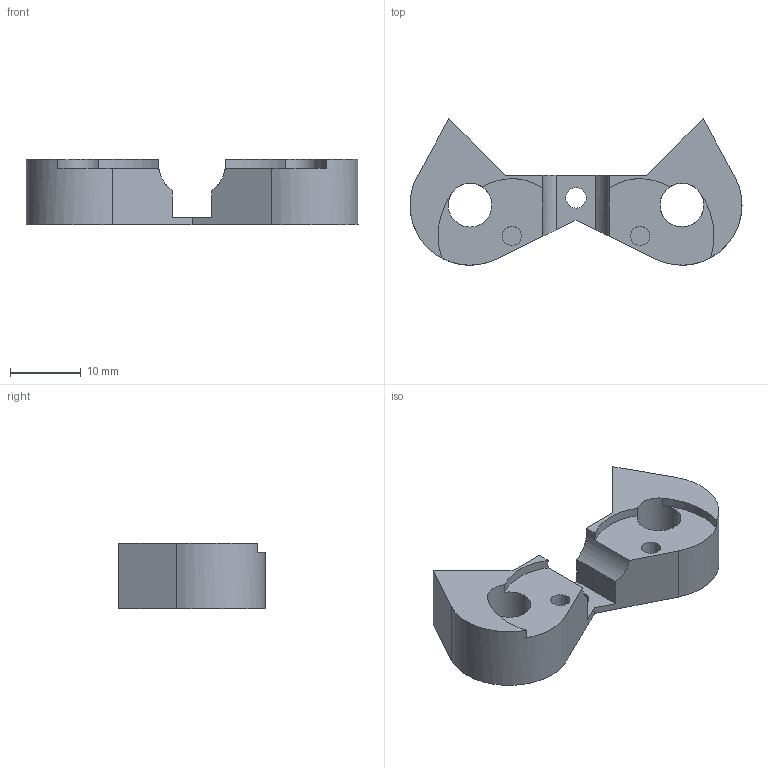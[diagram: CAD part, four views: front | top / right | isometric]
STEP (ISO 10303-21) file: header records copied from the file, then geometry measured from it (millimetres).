
FILE_DESCRIPTION(/* description */ (''),/* implementation_level */ '2;1');
FILE_NAME(/* name */ 'D:/Pew Pews/FGC-9_MkII_Stingray_Edition/Stingray Edition/.step files/3 - Buffer Tube and Stock/Buffer Tube/Locking Tab Spacer.step',/* time_stamp */ '2022-05-12T09:47:54-06:00',/* author */ (''),/* organization */ (''),/* preprocessor_version */ 'ST-DEVELOPER v18.1',/* originating_system */ 'Autodesk Translation Framework v10.10.0.1391',/* authorisation */ '');
FILE_SCHEMA (('AUTOMOTIVE_DESIGN { 1 0 10303 214 3 1 1 }'));
Length unit declared in the file: millimetre
Products named in the file (1): LOCK buffer
Bounding box: 47 x 20.72 x 9.3 mm (x, y, z)
Volume: 4014.3 mm3; surface area: 2639.2 mm2
Topology: 1 solids, 1 shells, 33 faces, 93 edges, 62 vertices
Faces by surface type: plane 19, cylinder 14
Full cylindrical faces by diameter (mm): 2.7 x2, 2.9 x1, 6.2 x2
Entity records: 1141 total; most frequent: CARTESIAN_POINT 204, DIRECTION 191, ORIENTED_EDGE 186, EDGE_CURVE 93, AXIS2_PLACEMENT_3D 67, VERTEX_POINT 62, LINE 57, VECTOR 57
